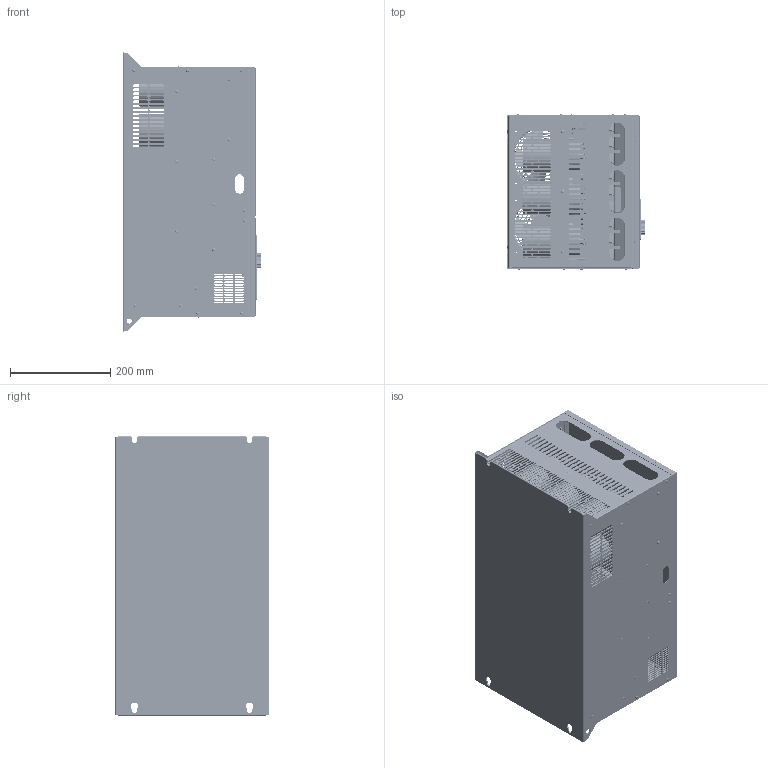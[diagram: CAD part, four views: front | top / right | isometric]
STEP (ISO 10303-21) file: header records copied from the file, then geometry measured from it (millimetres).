
FILE_DESCRIPTION((''),'2;1');
FILE_NAME('E160-75G_ASM','2022-12-09T',('500081'),(''),'CREO PARAMETRIC BY PTC INC, 2014350','CREO PARAMETRIC BY PTC INC, 2014350','');
FILE_SCHEMA(('CONFIG_CONTROL_DESIGN'));
Products named in the file (97): E160-75GT4C1-MS01; E160-75GT4C1-MS02; E160-75GT4C1-MS03; E160-75GT4C1-MS04; E160-75GT4C1-MS05; E160-75GT4C1-MS06; E160-75GT4C1-MS07; E160-75GT4C1-MS08; PANTOU-LD-M3X7; E160-75GT4C1-MA02_ASM; E160-75GT4C1-MS09; SIYIN-01; E160-75GT4C1-MS09_ASM; E160-75GT4C1-MS11; SIYIN-02; E160-75GT4C1-MS11_ASM; E160-75GT4C1-MS13; E160-75GT4C1-MS15; E160-75GT4C1-MS16; E160-75GT4C1-MS14; E160-75GT4C1-MA05_ASM; E160-75GT4C1-MS17; E160-75GT4C1-MA01_ASM; E160-75GT4C1-MC01; E160-75GT4C1-MC02; E160-75GT4C1-MC03; E160-75GT4C1-MC04; E160-75GT4C1-MC05; E160-75GT4C1-MC06; E160-75GT4C1-MC07; E160-75GT4C1-MC08; E160-75GT4C1-MC09; E160-75GT4C1-MC10; E160-75GT4C1-MC11; E160-75GT4C1-MC12; E160-75GT4C1-MC13; E160-75GT4C1-MC14; E160-75GT4C1-MC15; E160-75GT4C1-MC16; E160-75GT4C1-MC17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
Assembly tree (182 placements, depth 5):
  E160-75G_ASM
    E160-75GT4C1-MA00_ASM
      E160-75GT4C1-MA01_ASM
        E160-75GT4C1-MA02_ASM
          E160-75GT4C1-MS01
          E160-75GT4C1-MS02
          E160-75GT4C1-MS03
          E160-75GT4C1-MS04
          E160-75GT4C1-MS05
          E160-75GT4C1-MS06
          E160-75GT4C1-MS07  x2
          E160-75GT4C1-MS08  x2
          PANTOU-LD-M3X7  x42
        E160-75GT4C1-MS09_ASM
          E160-75GT4C1-MS09
          SIYIN-01
        E160-75GT4C1-MS11_ASM
          E160-75GT4C1-MS11
          SIYIN-02
        E160-75GT4C1-MS13  x2
        E160-75GT4C1-MS15
        E160-75GT4C1-MA05_ASM
          E160-75GT4C1-MS16
          E160-75GT4C1-MS14  x2
          PANTOU-LD-M3X7  x4
        E160-75GT4C1-MS17
      E160-75GT4C1-MA06_ASM
        E160-75GT4C1-MC01
        E160-75GT4C1-MC02
        E160-75GT4C1-MC03
        E160-75GT4C1-MC04
        E160-75GT4C1-MC05
        E160-75GT4C1-MC06
        E160-75GT4C1-MC07
        E160-75GT4C1-MC08
        E160-75GT4C1-MC09
        E160-75GT4C1-MC10
        E160-75GT4C1-MC11
        E160-75GT4C1-MC12
        E160-75GT4C1-MC13
        E160-75GT4C1-MC14
        E160-75GT4C1-MC15
        E160-75GT4C1-MC16
        E160-75GT4C1-MC17
        E160-75GT4C1-MC18
        E160-75GT4C1-MC19
        E160-75GT4C1-MC20
        E160-75GT4C1-MC21
        E160-75GT4C1-MC22
        E160-75GT4C1-MC23
        E160-75GT4C1-MC24
      E160-75GT4C1-MA08_ASM
        E160-75GT4C1-MC25
        E160-75GT4C1-MC26
        JYZ-M6X20
        E160-75GT4C1-MC06
        M6-14  x2
      E160-75GT4C1-MA07_ASM
        E160-75GT4C1-MI01
        E160-75GT4C1-MI02
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Bounding box: 276.4 x 309 x 558.49 mm (x, y, z)
Volume: 6871511.2 mm3; surface area: 5660346 mm2
Topology: 310 solids, 336 shells, 21669 faces, 56804 edges, 36400 vertices
Faces by surface type: plane 16086, cylinder 4250, torus 475, extrusion 248, bspline 194, revolution 186, cone 164, sphere 66
Entity records: 537105 total; most frequent: CARTESIAN_POINT 82111, ORIENTED_EDGE 67516, DIRECTION 66807, PRESENTATION_STYLE_ASSIGNMENT 35284, EDGE_CURVE 33789, STYLED_ITEM 33133, CURVE_STYLE 32770, VECTOR 25817
